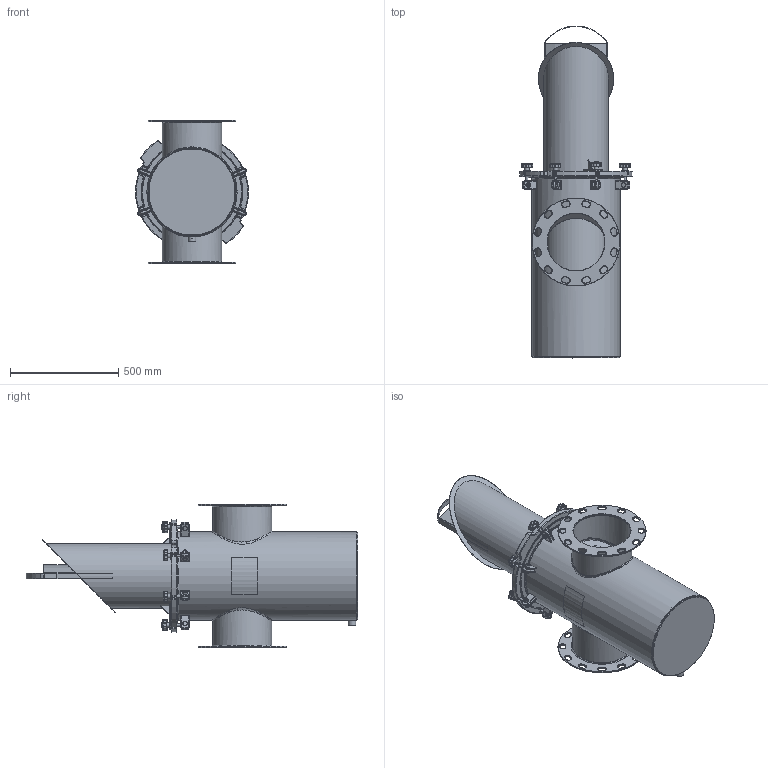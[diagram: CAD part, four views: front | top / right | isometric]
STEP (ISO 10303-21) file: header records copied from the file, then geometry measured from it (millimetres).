
FILE_DESCRIPTION(/* description */ ('16" STRAINER BODY'),/* implementation_level */ '2;1');
FILE_NAME(/* name */ 'C:\Users\r.kommineni.ext\Desktop\NB\CAD\Workspace\SS Straight\Guardian SS H&L Strainer (Inch)_CLEARANCE VOLUME\STRAINER H&L GUARDIAN 10(_DQ).stp',/* time_stamp */ '2017-06-09T13:08:32-04:00',/* author */ ('r.kommineni.ext'),/* organization */ (''),/* preprocessor_version */ 'ST-DEVELOPER v16.1',/* originating_system */ 'Autodesk Inventor 2016',/* authorisation */ '');
FILE_SCHEMA (('CONFIG_CONTROL_DESIGN'));
Length unit declared in the file: inch
Products named in the file (35): NBSSBODY10_Welds; FOR NBSSBODY10; FOR 16 DIA STRAINER BODY; FOR 16 DIA STRAINER BODY_1; 16 Body; ConcentricPipe-10(_DQ) - M; 10(_DQ); For 16 Body; ASME B16.11 Half Coupling Threaded - Class 3000 3_4 x 3_4; 16 Body_1; NBSSBODY10; 150NBCVR20R2; 150NBGSK16R1; Perforated Basket 16in; Bride (Ring) 16in; Baffle 16in; Handle 16in; Bottom Strainer 16in; BRACESTRCVR16_Welds; BRACE (BASE) FOR 16 BODY; BRACE (PROJ) FOR 16 BODY; Bumper; BRACESTRCVR16; Nut- 1_2  UNC; Bolt-1_2 x 1 1_2  UNC; EyeBolt; Washer; Knob M10; Securing Assembly with Brace; Securing Assembly without Brace; Label for 16 inch (Right); Label for 16 inch (Left); NBBSK10T316_clearance; NBBSK10T316_clearance_1; STRAINER H&L GUARDIAN 10(_DQ)
Assembly tree (70 placements, depth 3):
  STRAINER H&L GUARDIAN 10(_DQ)
    NBSSBODY10
      NBSSBODY10_Welds
      FOR NBSSBODY10
      FOR 16 DIA STRAINER BODY
      FOR 16 DIA STRAINER BODY_1
      16 Body  x4
      ConcentricPipe-10(_DQ) - M  x2
      10(_DQ)  x2
      For 16 Body
      ASME B16.11 Half Coupling Threaded - Class 3000 3_4 x 3_4
      16 Body_1  x16
    150NBCVR20R2
    150NBGSK16R1
    NBBSK10T316_clearance_1
      Perforated Basket 16in
      Bride (Ring) 16in
      Baffle 16in
      Handle 16in
      Bottom Strainer 16in
      NBBSK10T316_clearance
    BRACESTRCVR16
      BRACESTRCVR16_Welds
      BRACE (BASE) FOR 16 BODY
      BRACE (PROJ) FOR 16 BODY
      Bumper  x6
    Securing Assembly with Brace  x2
      Nut- 1_2  UNC
      Bolt-1_2 x 1 1_2  UNC
      EyeBolt
      Washer
      Knob M10
    Securing Assembly without Brace  x6
      Nut- 1_2  UNC
      Bolt-1_2 x 1 1_2  UNC
      EyeBolt
      Washer
      Knob M10
    Label for 16 inch (Right)
    Label for 16 inch (Left)
Bounding box: 519.38 x 1529.75 x 660.4 mm (x, y, z)
Volume: 16126886.6 mm3; surface area: 6467765.8 mm2
Topology: 109 solids, 112 shells, 2366 faces, 5262 edges, 3094 vertices
Faces by surface type: cylinder 848, plane 650, torus 420, cone 189, sphere 142, bspline 117
Full cylindrical faces by diameter (mm): 3.175 x11, 6.35 x1, 8.382 x8, 9.525 x16, 10.592 x8, 12.7 x8, 15.875 x16, 19 x16, 19.05 x8, 22.8 x1, 22.809 x1, 31.75 x8, 35.052 x1, 265.113 x2, 267.492 x4, 273.05 x6, 295.275 x2, 298.45 x2, 300.99 x1, 393.7 x3, 400.05 x2, 406.4 x4, 409.575 x1, 415.925 x1, 457.2 x1, 463.55 x1, 469.9 x1
Entity records: 36721 total; most frequent: CARTESIAN_POINT 12645, DIRECTION 5225, ORIENTED_EDGE 4313, EDGE_CURVE 2181, AXIS2_PLACEMENT_3D 2158, VERTEX_POINT 1355, EDGE_LOOP 1177, CIRCLE 1015
